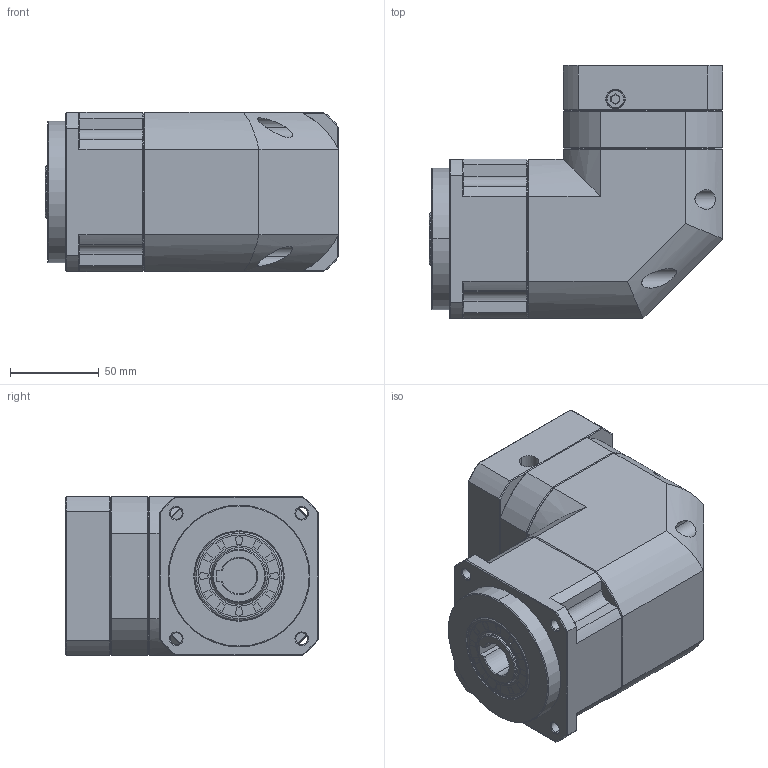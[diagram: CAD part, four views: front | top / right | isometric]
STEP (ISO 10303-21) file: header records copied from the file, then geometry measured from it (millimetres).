
FILE_DESCRIPTION (( 'STEP AP214' ), '1' );
FILE_NAME ('ZPBR090-K20-L1-P1-19-70-90-M5.step', '2024-06-07T18:39:09', ( 'Windows 蚚誧' ), ( 'Organization' ), 'SwSTEP 2.0', 'SolidWorks 2016', '' );
FILE_SCHEMA (( 'AUTOMOTIVE_DESIGN' ));
Length unit declared in the file: millimetre
Products named in the file (1): ZPBR090-K20-L1-P1-19-70-90-M5
Bounding box: 165.5 x 143 x 90 mm (x, y, z)
Surface area: 117823.6 mm2 (no closed solid volume)
Topology: 0 solids, 33 shells, 1798 faces, 4787 edges, 3076 vertices
Faces by surface type: plane 969, bspline 368, cone 234, cylinder 212, torus 15
Entity records: 83708 total; most frequent: CARTESIAN_POINT 38082, ORIENTED_EDGE 9553, DIRECTION 7423, EDGE_CURVE 4787, VECTOR 3211, LINE 3211, VERTEX_POINT 3076, AXIS2_PLACEMENT_3D 2106
